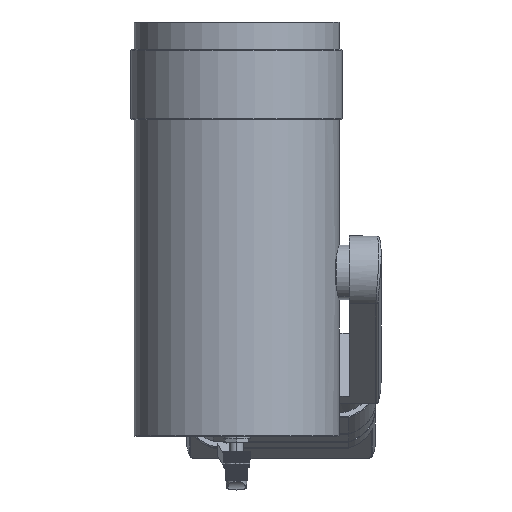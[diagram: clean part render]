
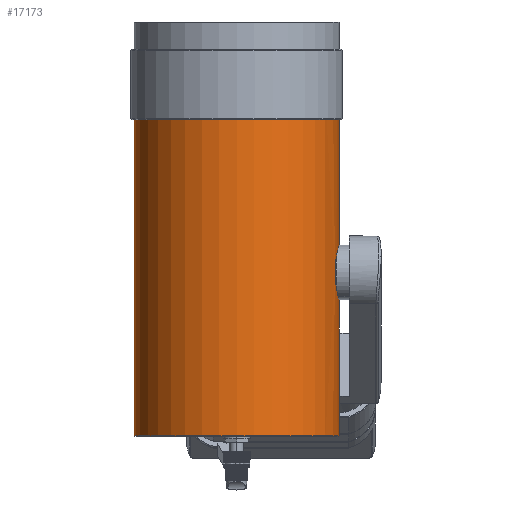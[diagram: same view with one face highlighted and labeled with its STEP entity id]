
A CAD part, front view. The second image highlights one B-rep face of the part: STEP entity #17173.
In plain terms, the highlighted cylindrical face has radius 45 mm (diameter 90 mm), a partial arc.
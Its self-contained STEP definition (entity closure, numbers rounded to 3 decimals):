
#4432=DIRECTION('',(0.,0.,-1.));
#4433=VECTOR('',#4432,65.);
#4434=CARTESIAN_POINT('',(45.,0.,58.5));
#4435=LINE('',#4434,#4433);
#4441=DIRECTION('',(0.,0.,-1.));
#4442=VECTOR('',#4441,149.2);
#4443=CARTESIAN_POINT('',(-45.,0.,58.5));
#4444=LINE('',#4443,#4442);
#4450=DIRECTION('',(0.,0.,-1.));
#4451=VECTOR('',#4450,59.2);
#4452=CARTESIAN_POINT('',(45.,0.,-31.5));
#4453=LINE('',#4452,#4451);
#4462=CARTESIAN_POINT('',(45.,0.,-31.5));
#4463=CARTESIAN_POINT('',(45.,-0.77,-31.5));
#4464=CARTESIAN_POINT('',(44.962,-2.308,
-31.365));
#4465=CARTESIAN_POINT('',(44.772,-4.72,
-30.663));
#4466=CARTESIAN_POINT('',(44.488,-6.866,
-29.537));
#4467=CARTESIAN_POINT('',(44.158,-8.721,
-28.053));
#4468=CARTESIAN_POINT('',(43.834,-10.209,
-26.339));
#4469=CARTESIAN_POINT('',(43.518,-11.472,
-24.187));
#4470=CARTESIAN_POINT('',(43.286,-12.306,
-21.675));
#4471=CARTESIAN_POINT('',(43.203,-12.589,
-19.065));
#4472=CARTESIAN_POINT('',(43.276,-12.339,
-16.5));
#4473=CARTESIAN_POINT('',(43.496,-11.553,
-13.989));
#4474=CARTESIAN_POINT('',(43.817,-10.284,
-11.76));
#4475=CARTESIAN_POINT('',(44.144,-8.792,
-10.015));
#4476=CARTESIAN_POINT('',(44.479,-6.926,
-8.5));
#4477=CARTESIAN_POINT('',(44.768,-4.765,
-7.353));
#4478=CARTESIAN_POINT('',(44.961,-2.337,
-6.639));
#4479=CARTESIAN_POINT('',(45.,-0.781,-6.5));
#4480=CARTESIAN_POINT('',(45.,0.,-6.5));
#4482=CARTESIAN_POINT('',(0.,0.,-90.7));
#4483=DIRECTION('',(0.,0.,-1.));
#4484=DIRECTION('',(1.,0.,0.));
#4485=AXIS2_PLACEMENT_3D('',#4482,#4483,#4484);
#4487=CARTESIAN_POINT('',(0.,0.,58.5));
#4488=DIRECTION('',(0.,0.,-1.));
#4489=DIRECTION('',(1.,0.,0.));
#4490=AXIS2_PLACEMENT_3D('',#4487,#4488,#4489);
#8732=CARTESIAN_POINT('',(45.,0.,58.5));
#8733=CARTESIAN_POINT('',(-45.,0.,58.5));
#8734=VERTEX_POINT('',#8732);
#8735=VERTEX_POINT('',#8733);
#11194=CARTESIAN_POINT('',(45.,0.,-90.7));
#11195=CARTESIAN_POINT('',(-45.,0.,-90.7));
#11196=VERTEX_POINT('',#11194);
#11197=VERTEX_POINT('',#11195);
#11210=VERTEX_POINT('',#4462);
#11211=VERTEX_POINT('',#4480);
#17159=CARTESIAN_POINT('',(0.,0.,100.1));
#17160=DIRECTION('',(0.,0.,-1.));
#17161=DIRECTION('',(1.,0.,0.));
#17162=AXIS2_PLACEMENT_3D('',#17159,#17160,#17161);
#17163=CYLINDRICAL_SURFACE('',#17162,45.);
#17164=ORIENTED_EDGE('',*,*,#17143,.F.);
#17165=ORIENTED_EDGE('',*,*,#17104,.T.);
#17166=ORIENTED_EDGE('',*,*,#17056,.T.);
#17167=ORIENTED_EDGE('',*,*,#17101,.F.);
#17169=ORIENTED_EDGE('',*,*,#17168,.F.);
#17170=ORIENTED_EDGE('',*,*,#17097,.T.);
#17171=EDGE_LOOP('',(#17164,#17165,#17166,#17167,#17169,#17170));
#17172=FACE_OUTER_BOUND('',#17171,.F.);
#4481=B_SPLINE_CURVE_WITH_KNOTS('',3,(#4462,#4463,#4464,#4465,#4466,#4467,#4468,
#4469,#4470,#4471,#4472,#4473,#4474,#4475,#4476,#4477,#4478,#4479,#4480),
.UNSPECIFIED.,.F.,.F.,(4,1,1,1,1,1,1,1,1,1,1,1,1,1,1,1,4),(0.,0.063,0.125,
0.188,0.25,0.313,0.375,0.438,0.5,0.563,0.625,0.688,
0.75,0.813,0.875,0.938,1.),.UNSPECIFIED.);
#4486=CIRCLE('',#4485,45.);
#4491=CIRCLE('',#4490,45.);
#17056=EDGE_CURVE('',#11196,#11197,#4486,.T.);
#17097=EDGE_CURVE('',#8734,#11211,#4435,.T.);
#17101=EDGE_CURVE('',#8735,#11197,#4444,.T.);
#17104=EDGE_CURVE('',#11210,#11196,#4453,.T.);
#17143=EDGE_CURVE('',#11210,#11211,#4481,.T.);
#17168=EDGE_CURVE('',#8734,#8735,#4491,.T.);
#17173=ADVANCED_FACE('',(#17172),#17163,.T.);
